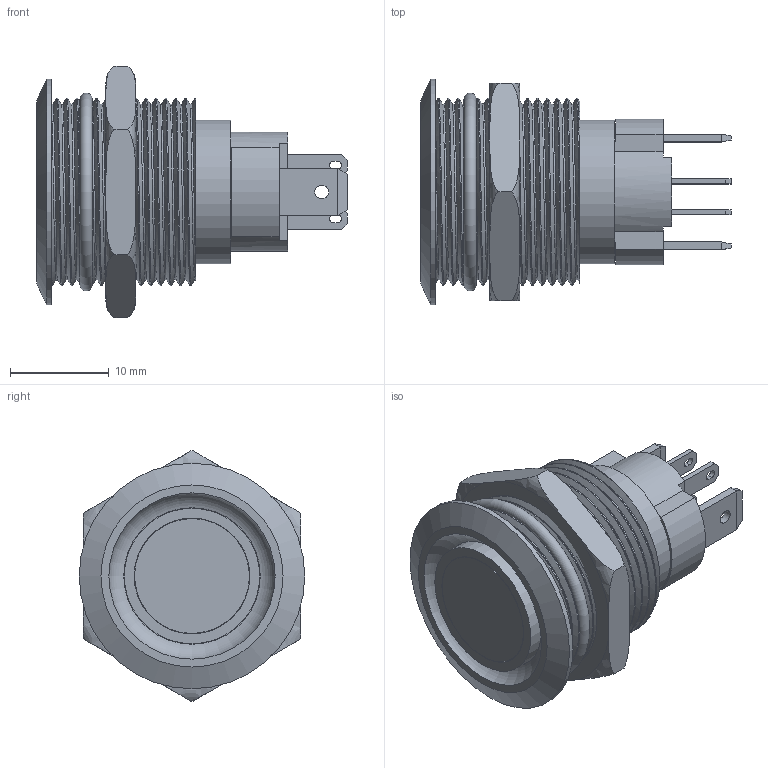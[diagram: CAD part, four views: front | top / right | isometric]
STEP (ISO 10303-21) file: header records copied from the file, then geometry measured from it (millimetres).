
FILE_DESCRIPTION(/* description */ (''),/* implementation_level */ '2;1');
FILE_NAME(/* name */ 'J19-C.stp',/* time_stamp */ '2019-11-08T13:21:40+08:00',/* author */ (''),/* organization */ (''),/* preprocessor_version */ 'ST-DEVELOPER v16.7',/* originating_system */ 'SIEMENS PLM Software NX 12.0',/* authorisation */ '');
FILE_SCHEMA (('AUTOMOTIVE_DESIGN { 1 0 10303 214 3 1 1 1 }'));
Length unit declared in the file: millimetre
Products named in the file (1): Admi6AF438ABmjun
Bounding box: 31.4 x 22.8 x 25.4 mm (x, y, z)
Volume: 4378.2 mm3; surface area: 6833.4 mm2
Topology: 12 solids, 12 shells, 492 faces, 1516 edges, 913 vertices
Faces by surface type: plane 271, cylinder 129, sphere 72, torus 14, bspline 4, cone 2
Full cylindrical faces by diameter (mm): 0.2 x4, 1.4 x2, 1.5 x2, 4.92 x1, 7 x1, 9.7 x1, 9.8 x1, 11.6 x1, 11.7 x1, 12.2 x1, 13.7 x1, 13.8 x1, 13.9 x1, 14.5 x1, 22.8 x1
Entity records: 23355 total; most frequent: CARTESIAN_POINT 9493, ORIENTED_EDGE 2680, DIRECTION 2561, EDGE_CURVE 1340, VERTEX_POINT 905, LINE 875, VECTOR 875, AXIS2_PLACEMENT_3D 843
